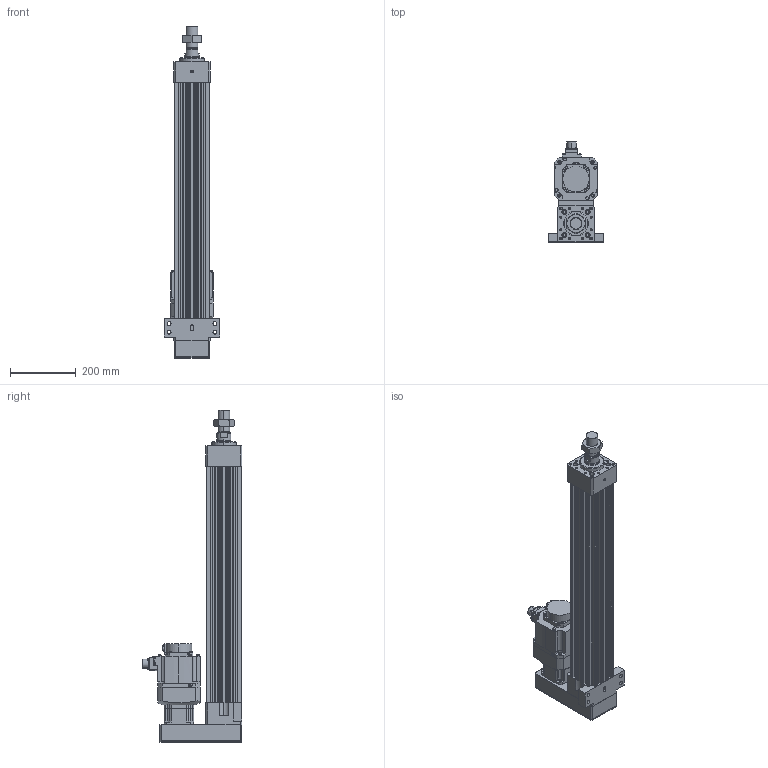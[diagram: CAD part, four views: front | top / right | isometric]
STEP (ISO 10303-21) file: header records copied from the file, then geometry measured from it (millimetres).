
FILE_DESCRIPTION (( 'STEP AP203' ), '1' );
FILE_NAME ('HES110NS(HS)-P550-W010G00-M-FFC.STEP', '2023-01-26T10:21:28', ( 'tms' ), ( '' ), 'SwSTEP 2.0', 'SolidWorks 2013', '' );
FILE_SCHEMA (( 'CONFIG_CONTROL_DESIGN' ));
Length unit declared in the file: millimetre
Products named in the file (8): HES110-P550-G090-FFC; M36X1.5P; HES110NS(HS)-P550-W010G00-M-FFC; HG-SR102; AB0901; P0401301004; HES110 ROD M ST550; AB090-003[HG-SR102B]
Assembly tree (7 placements, depth 3):
  HES110NS(HS)-P550-W010G00-M-FFC
    HES110-P550-G090-FFC
    HES110 ROD M ST550
    M36X1.5P
    AB090-003[HG-SR102B]
      AB0901
      P0401301004
    HG-SR102
Bounding box: 170 x 304.99 x 1013 mm (x, y, z)
Volume: 8959693.7 mm3; surface area: 1177366.9 mm2
Topology: 4 solids, 11 shells, 1111 faces, 2835 edges, 1826 vertices
Faces by surface type: cylinder 519, plane 486, cone 94, bspline 8, torus 4
Entity records: 35472 total; most frequent: CARTESIAN_POINT 6938, DIRECTION 6110, ORIENTED_EDGE 5574, EDGE_CURVE 2797, AXIS2_PLACEMENT_3D 2269, VERTEX_POINT 1826, LINE 1572, VECTOR 1572
